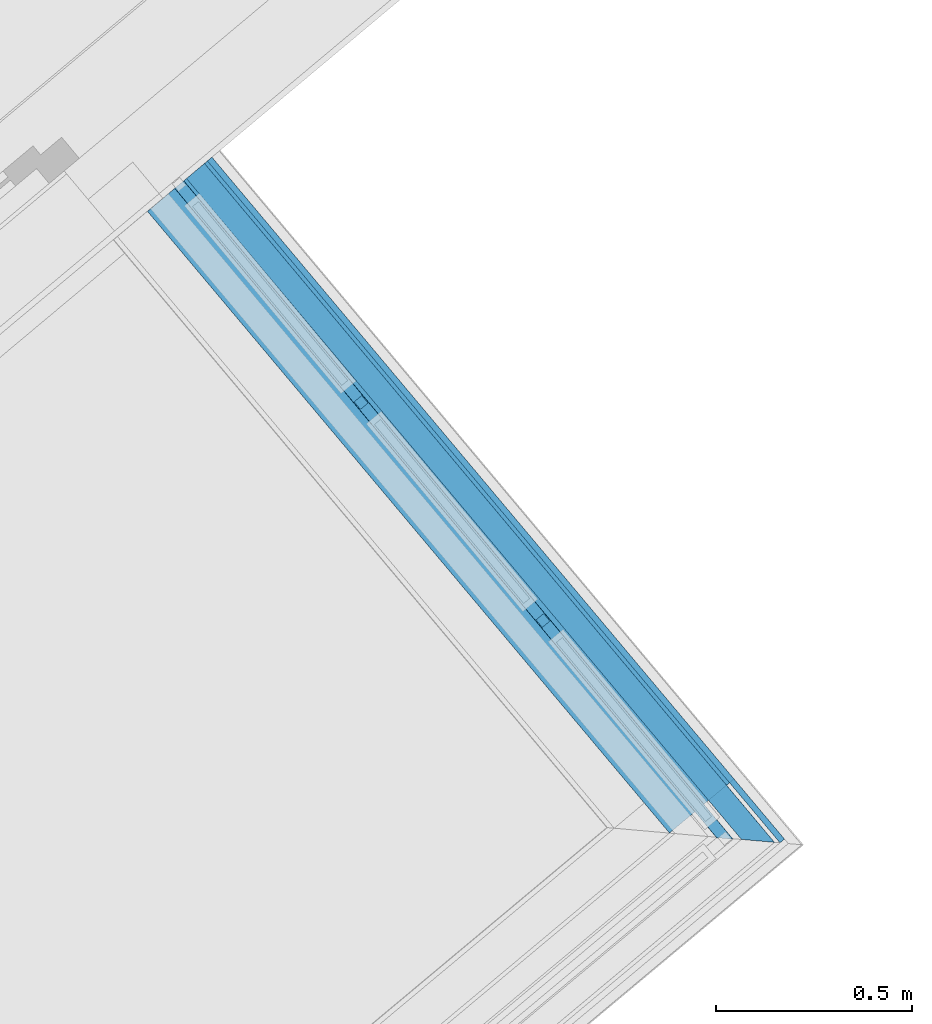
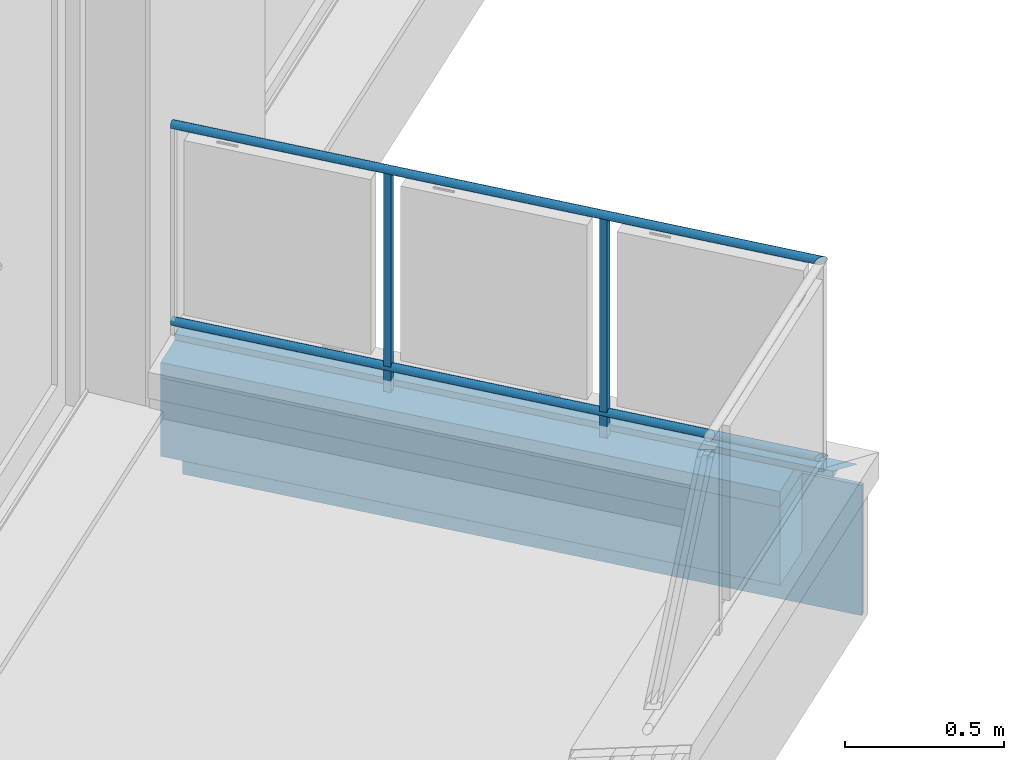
# One storey, part 20 of 50: 8 building element parts, 2 elements without a shape of their own.
"""IFC4 building model written with IfcOpenShell, lengths in metres."""

from ifc_helpers import new_model, entity, si_unit, converted_unit, derived_unit, direction, frame, origin_with_axes, place, context, subcontext, project, spatial, polygons, material, type_object, element, aggregate, save


model = new_model("IFC4")

# Units and contexts
model_context = context("Model", 3, precision=1e-05, world=origin_with_axes(), true_north=direction((0.0, 1.0)))
body_context = subcontext(model_context, "Body", "Model", "MODEL_VIEW")
ifc_project = project(units=[si_unit("LENGTHUNIT", "METRE"), si_unit("AREAUNIT", "SQUARE_METRE"), si_unit("VOLUMEUNIT", "CUBIC_METRE"), converted_unit("PLANEANGLEUNIT", "DEGREE", entity("IfcPlaneAngleMeasure", 0.0174532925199), si_unit("PLANEANGLEUNIT", "RADIAN"), dimensions=[0, 0, 0, 0, 0, 0, 0]), converted_unit("TIMEUNIT", "Year", entity("IfcTimeMeasure", 31556926.0), si_unit("TIMEUNIT", "SECOND"), dimensions=[0, 0, 1, 0, 0, 0, 0]), si_unit("MASSUNIT", "GRAM", prefix="KILO"), si_unit("THERMODYNAMICTEMPERATUREUNIT", "DEGREE_CELSIUS"), si_unit("LUMINOUSINTENSITYUNIT", "LUMEN"), si_unit("ENERGYUNIT", "JOULE", prefix="MEGA"), derived_unit("THERMALCONDUCTANCEUNIT", [(si_unit("POWERUNIT", "WATT"), 1), (si_unit("LENGTHUNIT", "METRE"), -1), (si_unit("THERMODYNAMICTEMPERATUREUNIT", "KELVIN"), -1)]), derived_unit("SPECIFICHEATCAPACITYUNIT", [(si_unit("ENERGYUNIT", "JOULE"), 1), (si_unit("MASSUNIT", "GRAM", prefix="KILO"), -1), (si_unit("THERMODYNAMICTEMPERATUREUNIT", "KELVIN"), -1)]), derived_unit("MASSDENSITYUNIT", [(si_unit("MASSUNIT", "GRAM", prefix="KILO"), 1), (si_unit("VOLUMEUNIT", "CUBIC_METRE"), -1)])], contexts=[model_context])

# Site, building, storey
site_placement = place(None, frame((-0.00153261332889, -0.00661245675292, 0.0), z_axis=(0.0, 0.0, 1.0), x_axis=(1.0, 0.0, 0.0)))
site = spatial("IfcSite", under=ifc_project, at=site_placement, Name="Site", CompositionType="ELEMENT")
building_placement = place(site_placement, origin_with_axes())
building = spatial("IfcBuilding", under=site, at=building_placement, Name="Building", CompositionType="ELEMENT")
storey_placement = place(building_placement, frame((0.0, 0.0, 2.74), z_axis=(0.0, 0.0, 1.0), x_axis=(1.0, 0.0, 0.0)))
storey = spatial("IfcBuildingStorey", under=building, at=storey_placement, Name="OG1", CompositionType="ELEMENT", Elevation=2.74)

# Wall, building element parts
wall_type = type_object("IfcWallType", Name="Bauteil - Attika Balkon 356 x 610", PredefinedType="NOTDEFINED")
wall_placement = place(storey_placement, frame((7.00366353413, 12.2268681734, -0.2), z_axis=(0.0, 0.0, 1.0), x_axis=(-0.643026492, 0.76584393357, 0.0)))
wall = element("IfcWall", 1, at=wall_placement, inside=storey, type_object=wall_type, Name="Wand-003", PredefinedType="NOTDEFINED")
ifc_material_1 = material(Name="Stahlbeton")
building_element_part_1_placement = place(wall_placement, origin_with_axes())
building_element_part_1 = element("IfcBuildingElementPart", 2, at=building_element_part_1_placement, material=ifc_material_1, Name="Stahlbeton", PredefinedType="NOTDEFINED", context=body_context, shape_type="Tessellation", body=[
    polygons([(-1.05534070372e-09, -1.05297282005e-09, 0.500000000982), (-0.000449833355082, -0.19999996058, 0.500000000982), (2.07193710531, -0.19999996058, 0.500000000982), (2.07193710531, -1.05297104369e-09, 0.500000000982), (-0.000449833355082, -0.19999996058, 0.498915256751), (-1.05534070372e-09, -1.05297282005e-09, 0.498915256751), (-0.000449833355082, -0.19999996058, 0.496604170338), (-0.000449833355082, -0.19999996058, 0.334999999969), (-0.000449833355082, -0.19999996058, 0.2), (2.07193710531, -0.19999996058, 0.2), (2.07193710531, -1.05297104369e-09, 0.335000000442), (2.07193710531, -1.05297104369e-09, 0.2), (-1.05534070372e-09, -1.05297282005e-09, 0.334999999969), (-1.05534070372e-09, -1.05297282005e-09, 0.496604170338), (-1.05534159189e-09, -1.0529745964e-09, 0.2)], [[[1, 2, 3, 4]], [[5, 2, 1, 6]], [[2, 5, 7, 8, 9, 10, 3]], [[11, 4, 3, 10, 12]], [[6, 1, 4, 11, 13, 14]], [[5, 6, 14, 7]], [[7, 14, 13, 8]], [[8, 13, 15, 9]], [[9, 15, 12, 10]], [[15, 13, 11, 12]]], closed=True),
])
ifc_material_2 = material(Name="Brettschichtholz")
building_element_part_2_placement = place(wall_placement, origin_with_axes())
building_element_part_2 = element("IfcBuildingElementPart", 3, at=building_element_part_2_placement, material=ifc_material_2, Name="Brettschichtholz", PredefinedType="NOTDEFINED", context=body_context, shape_type="Tessellation", body=[
    polygons([(-0.00042762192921, -0.190124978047, 0.560000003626), (-0.000483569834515, -0.214999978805, 0.560000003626), (2.07193710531, -0.214999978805, 0.560000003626), (2.07193710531, -0.190124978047, 0.559999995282), (-0.000483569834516, -0.214999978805, 0.519273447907), (-0.000292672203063, -0.130124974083, 0.560000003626), (-0.000157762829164, -0.0701429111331, 0.560000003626), (-2.28131217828e-05, -0.010142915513, 0.560000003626), (0.0, 0.0, 0.560000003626), (0.0, 0.0, 0.519273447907), (-0.000483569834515, -0.214999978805, 0.511410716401), (-0.000483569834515, -0.214999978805, 0.509099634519), (-0.000483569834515, -0.214999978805, 0.506731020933), (-0.000483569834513, -0.214999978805, 0.499999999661), (2.07193710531, -0.214999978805, 0.499999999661), (2.07193710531, -0.0701429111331, 0.559999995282), (2.07193710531, -0.130124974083, 0.559999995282), (2.07193710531, 0.0, 0.499999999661), (2.07193710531, 0.0, 0.560000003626), (2.07193710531, -0.010142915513, 0.559999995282), (0.0, 0.0, 0.499999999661), (0.0, 0.0, 0.506731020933), (0.0, 0.0, 0.509099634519), (0.0, 0.0, 0.511410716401)], [[[1, 2, 3, 4]], [[5, 2, 1, 6, 7, 8, 9, 10]], [[2, 5, 11, 12, 13, 14, 15, 3]], [[16, 17, 4, 3, 15, 18, 19, 20]], [[6, 1, 4, 17]], [[7, 6, 17, 16]], [[8, 7, 16, 20]], [[9, 8, 20, 19]], [[10, 9, 19, 18, 21, 22, 23, 24]], [[5, 10, 24, 11]], [[11, 24, 23, 12]], [[12, 23, 22, 13]], [[13, 22, 21, 14]], [[14, 21, 18, 15]]], closed=True),
])
ifc_material_3 = material(Name="Vollholz")
building_element_part_3_placement = place(wall_placement, origin_with_axes())
building_element_part_3 = element("IfcBuildingElementPart", 4, at=building_element_part_3_placement, material=ifc_material_3, Name="Vollholz", PredefinedType="NOTDEFINED", context=body_context, shape_type="Tessellation", body=[
    polygons([(2.07193710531, -0.130124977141, 0.560000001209), (-0.130417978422, -0.130124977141, 0.560000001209), (-0.130417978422, -0.130124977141, 0.575576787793), (-0.130417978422, -0.130124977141, 0.57982217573), (-0.130417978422, -0.130124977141, 0.581921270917), (-0.130417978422, -0.130124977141, 0.584015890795), (2.07193710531, -0.130124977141, 0.584015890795), (2.07193710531, -0.190124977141, 0.560000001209), (-0.130552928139, -0.190124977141, 0.560000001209), (-0.130552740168, -0.190041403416, 0.575576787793), (-0.130552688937, -0.190018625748, 0.57982217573), (-0.130552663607, -0.190007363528, 0.581921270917), (-0.13055263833, -0.189996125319, 0.584015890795), (-0.190412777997, -0.189984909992, 0.586106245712), (2.07193710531, -0.189984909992, 0.586106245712)], [[[1, 2, 3, 4, 5, 6, 7]], [[2, 1, 8, 9]], [[3, 2, 9, 10]], [[4, 3, 10, 11]], [[5, 4, 11, 12]], [[6, 5, 12, 13]], [[7, 6, 14, 15]], [[1, 7, 15, 8]], [[8, 15, 14, 13, 12, 11, 10, 9]], [[6, 13, 14]]], closed=True),
])
ifc_material_4 = material(Name="Zementputz")
building_element_part_4_placement = place(wall_placement, origin_with_axes())
building_element_part_4 = element("IfcBuildingElementPart", 5, at=building_element_part_4_placement, material=ifc_material_4, Name="Zementputz", PredefinedType="NOTDEFINED", context=body_context, shape_type="Tessellation", body=[
    polygons([(-0.200450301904, -0.199999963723, 0.500000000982), (-0.200484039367, -0.214999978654, 0.500000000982), (2.07193710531, -0.214999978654, 0.500000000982), (2.07193710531, -0.199999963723, 0.500000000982), (-0.200484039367, -0.214999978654, 0.498915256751), (-0.200450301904, -0.199999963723, 0.498915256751), (-0.200484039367, -0.214999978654, 0.496604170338), (-0.200484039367, -0.214999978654, 0.334999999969), (-0.200484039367, -0.214999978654, 0.2), (-0.200484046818, -0.214999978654, 0.0), (2.07193710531, -0.214999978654, 0.0), (2.07193710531, -0.199999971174, 0.0), (2.07193710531, -0.199999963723, 0.200000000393), (-0.200450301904, -0.199999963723, 0.2), (-0.200450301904, -0.199999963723, 0.334999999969), (-0.200450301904, -0.199999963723, 0.496604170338), (-0.200450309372, -0.199999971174, 0.0)], [[[1, 2, 3, 4]], [[5, 2, 1, 6]], [[2, 5, 7, 8, 9, 10, 11, 3]], [[12, 13, 4, 3, 11]], [[6, 1, 4, 13, 14, 15, 16]], [[5, 6, 16, 7]], [[7, 16, 15, 8]], [[8, 15, 14, 9]], [[9, 14, 17, 10]], [[10, 17, 12, 11]], [[17, 14, 13, 12]]], closed=True),
])
aggregate(wall, [building_element_part_1, building_element_part_2, building_element_part_3, building_element_part_4])

# Railing, building element parts
railing_type = type_object("IfcRailingType", Name="Geländerart", PredefinedType="NOTDEFINED")
railing_placement = place(storey_placement, frame((-0.869246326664, 8.34153645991, 0.38), z_axis=(0.0, 0.0, 1.0), x_axis=(1.0, 0.0, 0.0)))
railing = element("IfcRailing", 6, at=railing_placement, inside=storey, type_object=railing_type, Name="Geländer - 001", PredefinedType="NOTDEFINED")
ifc_material_5 = material(Name="Aluminium")
building_element_part_5_placement = place(railing_placement, origin_with_axes())
building_element_part_5 = element("IfcBuildingElementPart", 7, at=building_element_part_5_placement, material=ifc_material_5, Name="Aluminium", PredefinedType="NOTDEFINED", context=body_context, shape_type="Tessellation", body=[
    polygons([(7.99310948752, 3.8734401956, 0.825), (7.99343033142, 3.8734113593, 0.827604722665), (6.61036627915, 5.53109027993, 0.827604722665), (6.6101913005, 5.53094428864, 0.825), (7.99343033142, 3.8734113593, 0.822395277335), (7.99438311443, 3.87332572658, 0.81986969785), (7.99593888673, 3.87318589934, 0.8175), (7.99805037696, 3.87299612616, 0.815358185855), (8.00065342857, 3.87276217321, 0.813509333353), (8.00366894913, 3.87249114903, 0.812009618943), (8.0070053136, 3.87219128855, 0.810904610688), (8.01056114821, 3.87187170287, 0.810227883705), (8.01422841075, 3.87154210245, 0.81), (8.01789567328, 3.87121250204, 0.810227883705), (8.02145150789, 3.87089291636, 0.810904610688), (8.02478787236, 3.87059305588, 0.812009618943), (8.02780339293, 3.8703220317, 0.813509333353), (8.03040644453, 3.87008807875, 0.815358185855), (8.03251793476, 3.86989830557, 0.8175), (8.03407370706, 3.86975847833, 0.81986969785), (8.03502649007, 3.86967284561, 0.822395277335), (8.03534733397, 3.86964400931, 0.825), (8.03502649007, 3.86967284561, 0.827604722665), (8.03407370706, 3.86975847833, 0.83013030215), (8.03251793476, 3.86989830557, 0.8325), (8.03040644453, 3.87008807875, 0.834641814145), (8.02780339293, 3.8703220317, 0.836490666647), (8.02478787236, 3.87059305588, 0.837990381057), (8.02145150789, 3.87089291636, 0.839095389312), (8.01789567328, 3.87121250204, 0.839772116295), (8.01422841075, 3.87154210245, 0.84), (8.01056114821, 3.87187170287, 0.839772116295), (8.0070053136, 3.87219128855, 0.839095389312), (8.00366894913, 3.87249114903, 0.837990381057), (8.00065342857, 3.87276217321, 0.836490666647), (7.99805037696, 3.87299612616, 0.834641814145), (7.99593888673, 3.87318589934, 0.8325), (7.99438311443, 3.87332572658, 0.83013030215), (6.61088589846, 5.53152381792, 0.83013030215), (6.61173437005, 5.53223172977, 0.8325), (6.61288591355, 5.53319250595, 0.834641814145), (6.6143055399, 5.53437695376, 0.836490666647), (6.61595011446, 5.53574908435, 0.837990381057), (6.61776966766, 5.53726720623, 0.839095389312), (6.61970891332, 5.53888519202, 0.839772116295), (6.62170892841, 5.54055388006, 0.84), (6.62370894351, 5.5422225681, 0.839772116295), (6.62564818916, 5.5438405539, 0.839095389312), (6.62746774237, 5.54535867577, 0.837990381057), (6.62911231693, 5.54673080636, 0.836490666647), (6.63053194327, 5.54791525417, 0.834641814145), (6.63168348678, 5.54887603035, 0.8325), (6.63253195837, 5.54958394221, 0.83013030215), (6.63305157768, 5.5500174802, 0.827604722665), (6.63322655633, 5.55016347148, 0.825), (6.63305157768, 5.5500174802, 0.822395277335), (6.63253195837, 5.54958394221, 0.81986969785), (6.63168348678, 5.54887603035, 0.8175), (6.63053194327, 5.54791525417, 0.815358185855), (6.62911231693, 5.54673080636, 0.813509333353), (6.62746774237, 5.54535867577, 0.812009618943), (6.62564818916, 5.5438405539, 0.810904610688), (6.62370894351, 5.5422225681, 0.810227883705), (6.62170892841, 5.54055388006, 0.81), (6.61970891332, 5.53888519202, 0.810227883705), (6.61776966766, 5.53726720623, 0.810904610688), (6.61595011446, 5.53574908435, 0.812009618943), (6.6143055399, 5.53437695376, 0.813509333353), (6.61288591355, 5.53319250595, 0.815358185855), (6.61173437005, 5.53223172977, 0.8175), (6.61088589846, 5.53152381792, 0.81986969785), (6.61036627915, 5.53109027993, 0.822395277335)], [[[1, 2, 3, 4]], [[1, 5, 6, 7, 8, 9, 10, 11, 12, 13, 14, 15, 16, 17, 18, 19, 20, 21, 22, 23, 24, 25, 26, 27, 28, 29, 30, 31, 32, 33, 34, 35, 36, 37, 38, 2]], [[2, 38, 39, 3]], [[4, 3, 39, 40, 41, 42, 43, 44, 45, 46, 47, 48, 49, 50, 51, 52, 53, 54, 55, 56, 57, 58, 59, 60, 61, 62, 63, 64, 65, 66, 67, 68, 69, 70, 71, 72]], [[5, 1, 4, 72]], [[6, 5, 72, 71]], [[7, 6, 71, 70]], [[8, 7, 70, 69]], [[9, 8, 69, 68]], [[10, 9, 68, 67]], [[11, 10, 67, 66]], [[12, 11, 66, 65]], [[13, 12, 65, 64]], [[14, 13, 64, 63]], [[15, 14, 63, 62]], [[16, 15, 62, 61]], [[17, 16, 61, 60]], [[18, 17, 60, 59]], [[19, 18, 59, 58]], [[20, 19, 58, 57]], [[21, 20, 57, 56]], [[22, 21, 56, 55]], [[23, 22, 55, 54]], [[24, 23, 54, 53]], [[25, 24, 53, 52]], [[26, 25, 52, 51]], [[27, 26, 51, 50]], [[28, 27, 50, 49]], [[29, 28, 49, 48]], [[30, 29, 48, 47]], [[31, 30, 47, 46]], [[32, 31, 46, 45]], [[33, 32, 45, 44]], [[34, 33, 44, 43]], [[35, 34, 43, 42]], [[36, 35, 42, 41]], [[37, 36, 41, 40]], [[38, 37, 40, 39]]], closed=True),
])
building_element_part_6_placement = place(railing_placement, origin_with_axes())
building_element_part_6 = element("IfcBuildingElementPart", 8, at=building_element_part_6_placement, material=ifc_material_5, Name="Aluminium", PredefinedType="NOTDEFINED", context=body_context, shape_type="Tessellation", body=[
    polygons([(7.99310948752, 3.8734401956, 0.07), (7.99343033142, 3.8734113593, 0.072604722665), (6.61036627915, 5.53109027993, 0.072604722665), (6.6101913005, 5.53094428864, 0.07), (7.99343033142, 3.8734113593, 0.067395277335), (7.99438311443, 3.87332572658, 0.0648696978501), (7.99593888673, 3.87318589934, 0.0625), (7.99805037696, 3.87299612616, 0.0603581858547), (8.00065342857, 3.87276217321, 0.0585093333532), (8.00366894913, 3.87249114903, 0.0570096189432), (8.0070053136, 3.87219128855, 0.0559046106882), (8.01056114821, 3.87187170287, 0.0552278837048), (8.01422841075, 3.87154210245, 0.055), (8.01789567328, 3.87121250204, 0.0552278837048), (8.02145150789, 3.87089291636, 0.0559046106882), (8.02478787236, 3.87059305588, 0.0570096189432), (8.02780339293, 3.8703220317, 0.0585093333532), (8.03040644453, 3.87008807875, 0.0603581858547), (8.03251793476, 3.86989830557, 0.0625), (8.03407370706, 3.86975847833, 0.0648696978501), (8.03502649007, 3.86967284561, 0.067395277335), (8.03534733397, 3.86964400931, 0.07), (8.03502649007, 3.86967284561, 0.072604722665), (8.03407370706, 3.86975847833, 0.0751303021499), (8.03251793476, 3.86989830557, 0.0775), (8.03040644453, 3.87008807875, 0.0796418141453), (8.02780339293, 3.8703220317, 0.0814906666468), (8.02478787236, 3.87059305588, 0.0829903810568), (8.02145150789, 3.87089291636, 0.0840953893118), (8.01789567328, 3.87121250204, 0.0847721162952), (8.01422841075, 3.87154210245, 0.085), (8.01056114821, 3.87187170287, 0.0847721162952), (8.0070053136, 3.87219128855, 0.0840953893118), (8.00366894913, 3.87249114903, 0.0829903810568), (8.00065342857, 3.87276217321, 0.0814906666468), (7.99805037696, 3.87299612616, 0.0796418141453), (7.99593888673, 3.87318589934, 0.0775), (7.99438311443, 3.87332572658, 0.0751303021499), (6.61088589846, 5.53152381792, 0.0751303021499), (6.61173437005, 5.53223172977, 0.0775), (6.61288591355, 5.53319250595, 0.0796418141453), (6.6143055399, 5.53437695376, 0.0814906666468), (6.61595011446, 5.53574908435, 0.0829903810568), (6.61776966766, 5.53726720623, 0.0840953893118), (6.61970891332, 5.53888519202, 0.0847721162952), (6.62170892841, 5.54055388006, 0.085), (6.62370894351, 5.5422225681, 0.0847721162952), (6.62564818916, 5.5438405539, 0.0840953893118), (6.62746774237, 5.54535867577, 0.0829903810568), (6.62911231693, 5.54673080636, 0.0814906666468), (6.63053194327, 5.54791525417, 0.0796418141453), (6.63168348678, 5.54887603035, 0.0775), (6.63253195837, 5.54958394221, 0.0751303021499), (6.63305157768, 5.5500174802, 0.072604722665), (6.63322655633, 5.55016347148, 0.07), (6.63305157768, 5.5500174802, 0.067395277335), (6.63253195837, 5.54958394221, 0.0648696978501), (6.63168348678, 5.54887603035, 0.0625), (6.63053194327, 5.54791525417, 0.0603581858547), (6.62911231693, 5.54673080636, 0.0585093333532), (6.62746774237, 5.54535867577, 0.0570096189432), (6.62564818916, 5.5438405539, 0.0559046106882), (6.62370894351, 5.5422225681, 0.0552278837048), (6.62170892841, 5.54055388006, 0.055), (6.61970891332, 5.53888519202, 0.0552278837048), (6.61776966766, 5.53726720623, 0.0559046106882), (6.61595011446, 5.53574908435, 0.0570096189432), (6.6143055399, 5.53437695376, 0.0585093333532), (6.61288591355, 5.53319250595, 0.0603581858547), (6.61173437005, 5.53223172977, 0.0625), (6.61088589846, 5.53152381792, 0.0648696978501), (6.61036627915, 5.53109027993, 0.067395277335)], [[[1, 2, 3, 4]], [[1, 5, 6, 7, 8, 9, 10, 11, 12, 13, 14, 15, 16, 17, 18, 19, 20, 21, 22, 23, 24, 25, 26, 27, 28, 29, 30, 31, 32, 33, 34, 35, 36, 37, 38, 2]], [[2, 38, 39, 3]], [[4, 3, 39, 40, 41, 42, 43, 44, 45, 46, 47, 48, 49, 50, 51, 52, 53, 54, 55, 56, 57, 58, 59, 60, 61, 62, 63, 64, 65, 66, 67, 68, 69, 70, 71, 72]], [[5, 1, 4, 72]], [[6, 5, 72, 71]], [[7, 6, 71, 70]], [[8, 7, 70, 69]], [[9, 8, 69, 68]], [[10, 9, 68, 67]], [[11, 10, 67, 66]], [[12, 11, 66, 65]], [[13, 12, 65, 64]], [[14, 13, 64, 63]], [[15, 14, 63, 62]], [[16, 15, 62, 61]], [[17, 16, 61, 60]], [[18, 17, 60, 59]], [[19, 18, 59, 58]], [[20, 19, 58, 57]], [[21, 20, 57, 56]], [[22, 21, 56, 55]], [[23, 22, 55, 54]], [[24, 23, 54, 53]], [[25, 24, 53, 52]], [[26, 25, 52, 51]], [[27, 26, 51, 50]], [[28, 27, 50, 49]], [[29, 28, 49, 48]], [[30, 29, 48, 47]], [[31, 30, 47, 46]], [[32, 31, 46, 45]], [[33, 32, 45, 44]], [[34, 33, 44, 43]], [[35, 34, 43, 42]], [[36, 35, 42, 41]], [[37, 36, 41, 40]], [[38, 37, 40, 39]]], closed=True),
])
building_element_part_7_placement = place(railing_placement, origin_with_axes())
building_element_part_7 = element("IfcBuildingElementPart", 9, at=building_element_part_7_placement, material=ifc_material_5, Name="Aluminium", PredefinedType="NOTDEFINED", context=body_context, shape_type="Tessellation", body=[
    polygons([(7.55164528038, 4.44548537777, -0.3), (7.53244923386, 4.42946939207, -0.3), (7.53244923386, 4.42946939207, 0.82), (7.55164528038, 4.44548537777, 0.82), (7.56766126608, 4.42628933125, -0.3), (7.54846521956, 4.41027334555, -0.3), (7.54846521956, 4.41027334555, 0.82), (7.56766126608, 4.42628933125, 0.82)], [[[1, 2, 3, 4]], [[1, 5, 6, 2]], [[2, 6, 7, 3]], [[4, 3, 7, 8]], [[5, 1, 4, 8]], [[6, 5, 8, 7]]], closed=True),
])
building_element_part_8_placement = place(railing_placement, origin_with_axes())
building_element_part_8 = element("IfcBuildingElementPart", 10, at=building_element_part_8_placement, material=ifc_material_5, Name="Aluminium", PredefinedType="NOTDEFINED", context=body_context, shape_type="Tessellation", body=[
    polygons([(7.0874721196, 5.00182263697, -0.3), (7.06827607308, 4.98580665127, -0.3), (7.06827607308, 4.98580665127, 0.82), (7.0874721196, 5.00182263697, 0.82), (7.1034881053, 4.98262659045, -0.3), (7.08429205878, 4.96661060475, -0.3), (7.08429205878, 4.96661060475, 0.82), (7.1034881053, 4.98262659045, 0.82)], [[[1, 2, 3, 4]], [[1, 5, 6, 2]], [[2, 6, 7, 3]], [[4, 3, 7, 8]], [[5, 1, 4, 8]], [[6, 5, 8, 7]]], closed=True),
])
aggregate(railing, [building_element_part_5, building_element_part_6, building_element_part_7, building_element_part_8])

save(model, "model.ifc")
